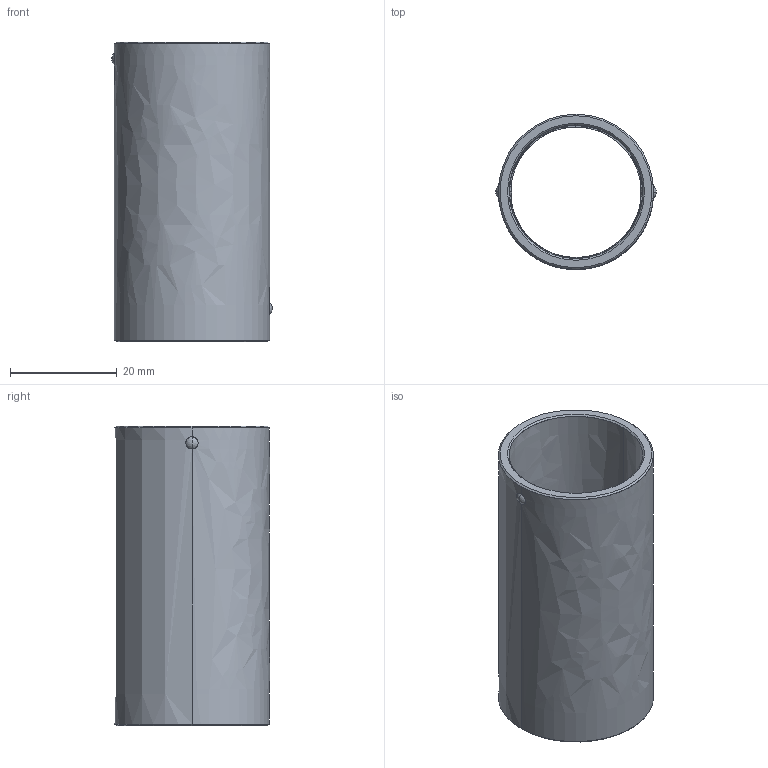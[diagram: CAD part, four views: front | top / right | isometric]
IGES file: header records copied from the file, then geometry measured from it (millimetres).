
Start section: START RECORD GO HERE.
Global section: file name: 730-24x56.igs; native system: DASSAULT SYSTEMES CATIA V5 R20 - www.3ds.com; preprocessor: CATIA Version 5 Release 20 ; author: Utente; organization: NB04-ASUS; date: 20210107.171605; units: millimetre
Bounding box: 30 x 29 x 56 mm (x, y, z)
Surface area: 9999 mm2 (no closed solid volume)
Topology: 0 solids, 0 shells, 44 faces, 240 edges, 240 vertices
Faces by surface type: revolution 36, plane 8
